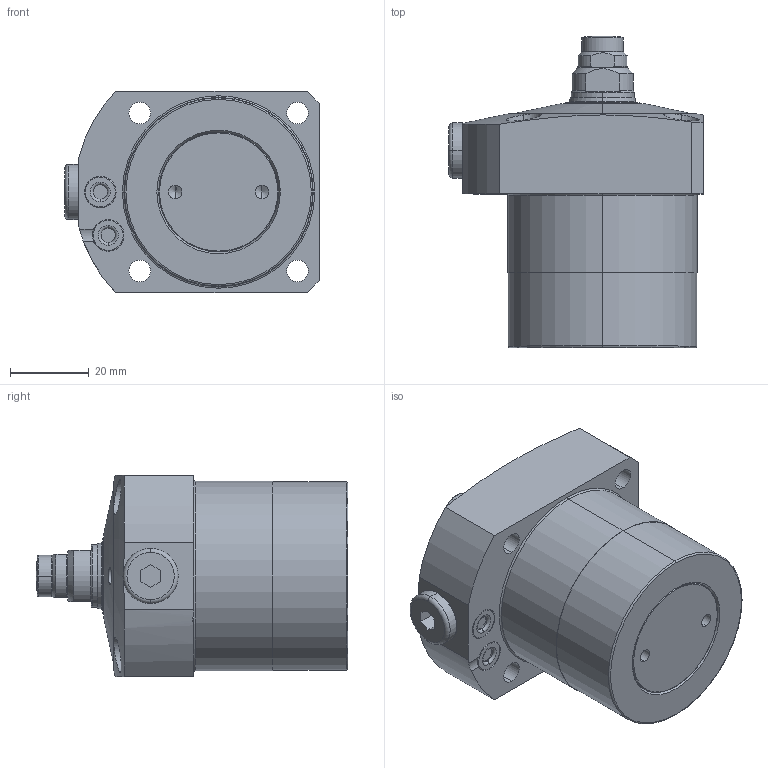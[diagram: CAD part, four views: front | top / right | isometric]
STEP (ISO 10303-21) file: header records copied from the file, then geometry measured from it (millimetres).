
FILE_DESCRIPTION(/* description */ (''),/* implementation_level */ '2;1');
FILE_NAME(/* name */ 'KFSC48-M.stp',/* time_stamp */ '2026-02-04T16:32:19+08:00',/* author */ (''),/* organization */ (''),/* preprocessor_version */ 'ST-DEVELOPER v16.7',/* originating_system */ 'SIEMENS PLM Software NX 12.0',/* authorisation */ '');
FILE_SCHEMA (('AUTOMOTIVE_DESIGN { 1 0 10303 214 3 1 1 1 }'));
Length unit declared in the file: millimetre
Products named in the file (10): XLC-M10SP_pin; XLC-M10SP_pad; XLC-M10_Oring; XLC-M10SP_contactbolt; KFSC48-M-02; KFSC48-M-04; KFSC48-M-01; P5-2; KFSC48-M-03; LC0483-CxM_step
Assembly tree (10 placements, depth 3):
  LC0483-CxM_step
    P5-2  x2
    KFSC48-M-03
      XLC-M10SP_contactbolt
      XLC-M10_Oring
      XLC-M10SP_pad
      XLC-M10SP_pin
    KFSC48-M-01
    KFSC48-M-04
    KFSC48-M-02
Bounding box: 64.5 x 79 x 51 mm (x, y, z)
Volume: 130906.8 mm3; surface area: 22441.2 mm2
Topology: 9 solids, 9 shells, 278 faces, 624 edges, 378 vertices
Faces by surface type: cylinder 94, torus 62, plane 61, cone 55, sphere 6
Entity records: 8321 total; most frequent: CARTESIAN_POINT 1890, DIRECTION 1427, ORIENTED_EDGE 1184, AXIS2_PLACEMENT_3D 617, EDGE_CURVE 592, VERTEX_POINT 364, CIRCLE 340, EDGE_LOOP 308
